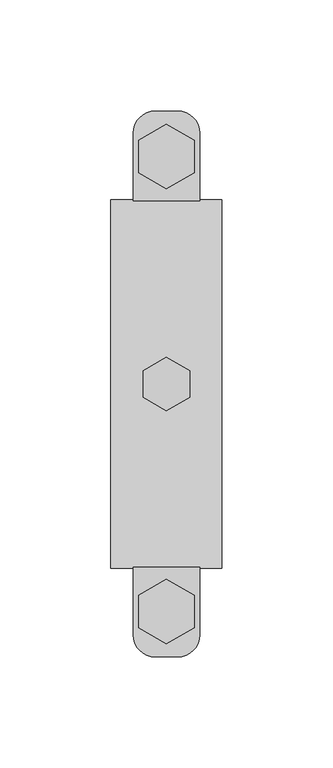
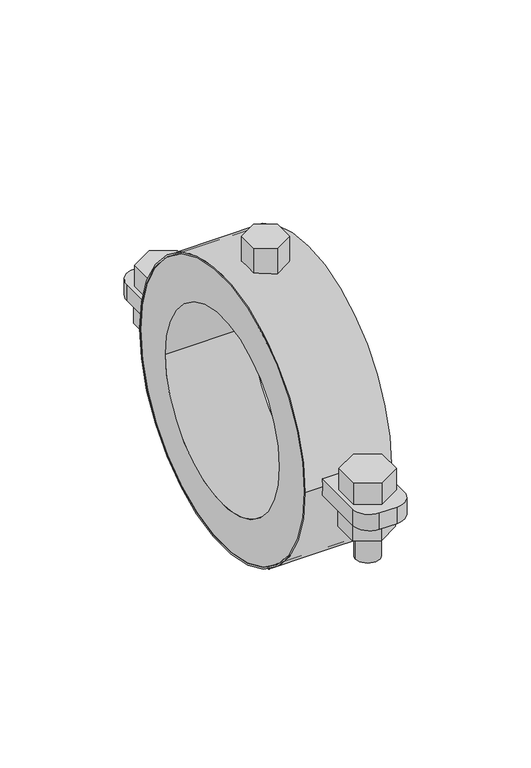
"""IFC4 building model written with IfcOpenShell, lengths in millimetres: pipe fitting geometry, СТ_Подвесы_ДляТруб_IsotermSM_D10-325_СимфонияТепла : Isoterm SMT 25-114."""

from ifc_helpers import new_model, si_unit, point, frame, frame_2d, origin, origin_2d, place, context, project, spatial, polyline, circle_curve, trimmed, segment, composite_curve, outline, extrude, source, transform, mapped, element, save
from ifc_brep_helpers import plane_surface, cylinder_surface, advanced_brep


def pipe_fitting_05f07e14(model_context):
    return source(origin(), model_context, "Body", "SolidModel", [
        extrude(outline(polyline([(12.5, 96.2113249), (0.0, 88.9944465), (-12.5, 96.2113249), (-12.5, 110.6450816), (0.0, 117.86196), (12.5, 110.6450816), (12.5, 96.2113249)])), frame((0.0, 0.0, -18.0), z_axis=(0.0, 0.0, 1.0), x_axis=(1.0, 0.0, 0.0)), (0.0, 0.0, 1.0), 13.0),
        advanced_brep(
        [(-7.0, 102.5, -35.0), (7.0, 102.5, -35.0), (7.0, 102.5, 5.0), (-7.0, 102.5, 5.0), (12.5, 95.2831216, 18.0), (12.5, 109.7168784, 18.0), (0.0, 116.9337567, 18.0), (-12.5, 109.7168784, 18.0), (-12.5, 95.2831216, 18.0), (0.0, 88.0662433, 18.0), (12.5, 95.2831216, 5.0), (0.0, 88.0662433, 5.0), (-12.5, 95.2831216, 5.0), (-12.5, 109.7168784, 5.0), (0.0, 116.9337567, 5.0), (12.5, 109.7168784, 5.0)],
        [
            (0, 1, circle_curve(frame((0.0, 102.5, -35.0), z_axis=(0.0, 0.0, -1.0), x_axis=(1.0, 0.0, 0.0)), 7.0)),
            (1, 0, circle_curve(frame((0.0, 102.5, -35.0), z_axis=(0.0, 0.0, -1.0), x_axis=(1.0, 0.0, 0.0)), 7.0)),
            (1, 2),
            (2, 3, circle_curve(frame((0.0, 102.5, 5.0), z_axis=(0.0, 0.0, -1.0), x_axis=(1.0, 0.0, 0.0)), 7.0)),
            (3, 0),
            (3, 2, circle_curve(frame((0.0, 102.5, 5.0), z_axis=(0.0, 0.0, -1.0), x_axis=(1.0, 0.0, 0.0)), 7.0)),
            (4, 5),
            (5, 6),
            (6, 7),
            (7, 8),
            (8, 9),
            (9, 4),
            (10, 11),
            (11, 12),
            (12, 13),
            (13, 14),
            (14, 15),
            (15, 10),
            (4, 10),
            (15, 5),
            (14, 6),
            (13, 7),
            (12, 8),
            (11, 9),
        ],
        [
            plane_surface(frame((7.0, 102.5, -35.0), z_axis=(0.0, 0.0, -1.0), x_axis=(0.0, -1.0, 0.0))),
            cylinder_surface(frame((0.0, 102.5, -35.0), z_axis=(0.0, 0.0, 1.0), x_axis=(1.0, 0.0, 0.0)), 7.0),
            plane_surface(frame((12.5, 95.2831216, 18.0), z_axis=(0.0, 0.0, 1.0), x_axis=(0.0, 1.0, 0.0))),
            plane_surface(frame((12.5, 95.2831216, 5.0), z_axis=(0.0, 0.0, -1.0), x_axis=(0.0, -1.0, 0.0))),
            plane_surface(frame((12.5, 95.2831216, 18.0), z_axis=(1.0, 0.0, 0.0), x_axis=(0.0, 0.0, -1.0))),
            plane_surface(frame((12.5, 109.7168784, 18.0), z_axis=(0.5000000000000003, 0.8660254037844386, 0.0), x_axis=(0.0, 0.0, -1.0))),
            plane_surface(frame((0.0, 116.9337567, 18.0), z_axis=(-0.5000000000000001, 0.8660254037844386, 0.0), x_axis=(0.0, 0.0, -1.0))),
            plane_surface(frame((-12.5, 109.7168784, 18.0), z_axis=(-1.0, 0.0, 0.0), x_axis=(0.0, 0.0, -1.0))),
            plane_surface(frame((-12.5, 95.2831216, 18.0), z_axis=(-0.5000000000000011, -0.8660254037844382, 0.0), x_axis=(0.0, 0.0, -1.0))),
            plane_surface(frame((0.0, 88.0662433, 18.0), z_axis=(0.5000000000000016, -0.8660254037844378, 0.0), x_axis=(0.0, 0.0, -1.0))),
        ],
        [
            (0, [[1, 2]]),
            (1, [[-2, 3, 4, 5]]),
            (1, [[-1, -5, 6, -3]]),
            (2, [[7, 8, 9, 10, 11, 12]]),
            (3, [[13, 14, 15, 16, 17, 18], [-4, -6]]),
            (4, [[-7, 19, -18, 20]]),
            (5, [[-8, -20, -17, 21]]),
            (6, [[-9, -21, -16, 22]]),
            (7, [[-10, -22, -15, 23]]),
            (8, [[-11, -23, -14, 24]]),
            (9, [[-12, -24, -13, -19]]),
        ],
    ),
        extrude(outline(polyline([(12.5, -108.7886751), (0.0, -116.0055535), (-12.5, -108.7886751), (-12.5, -94.3549184), (0.0, -87.13804), (12.5, -94.3549184), (12.5, -108.7886751)])), frame((0.0, 0.0, -18.0), z_axis=(0.0, 0.0, 1.0), x_axis=(1.0, 0.0, 0.0)), (0.0, 0.0, 1.0), 13.0),
        advanced_brep(
        [(-7.0, -102.5, -35.0), (7.0, -102.5, -35.0), (7.0, -102.5, 5.0), (-7.0, -102.5, 5.0), (12.5, -109.7168784, 18.0), (12.5, -95.2831216, 18.0), (0.0, -88.0662433, 18.0), (-12.5, -95.2831216, 18.0), (-12.5, -109.7168784, 18.0), (0.0, -116.9337567, 18.0), (12.5, -109.7168784, 5.0), (0.0, -116.9337567, 5.0), (-12.5, -109.7168784, 5.0), (-12.5, -95.2831216, 5.0), (0.0, -88.0662433, 5.0), (12.5, -95.2831216, 5.0)],
        [
            (0, 1, circle_curve(frame((0.0, -102.5, -35.0), z_axis=(0.0, 0.0, -1.0), x_axis=(1.0, 0.0, 0.0)), 7.0)),
            (1, 0, circle_curve(frame((0.0, -102.5, -35.0), z_axis=(0.0, 0.0, -1.0), x_axis=(1.0, 0.0, 0.0)), 7.0)),
            (1, 2),
            (2, 3, circle_curve(frame((0.0, -102.5, 5.0), z_axis=(0.0, 0.0, -1.0), x_axis=(1.0, 0.0, 0.0)), 7.0)),
            (3, 0),
            (3, 2, circle_curve(frame((0.0, -102.5, 5.0), z_axis=(0.0, 0.0, -1.0), x_axis=(1.0, 0.0, 0.0)), 7.0)),
            (4, 5),
            (5, 6),
            (6, 7),
            (7, 8),
            (8, 9),
            (9, 4),
            (10, 11),
            (11, 12),
            (12, 13),
            (13, 14),
            (14, 15),
            (15, 10),
            (4, 10),
            (15, 5),
            (14, 6),
            (13, 7),
            (12, 8),
            (11, 9),
        ],
        [
            plane_surface(frame((7.0, -102.5, -35.0), z_axis=(0.0, 0.0, -1.0), x_axis=(0.0, -1.0, 0.0))),
            cylinder_surface(frame((0.0, -102.5, -35.0), z_axis=(0.0, 0.0, 1.0), x_axis=(1.0, 0.0, 0.0)), 7.0),
            plane_surface(frame((12.5, -109.7168784, 18.0), z_axis=(0.0, 0.0, 1.0), x_axis=(0.0, 1.0, 0.0))),
            plane_surface(frame((12.5, -109.7168784, 5.0), z_axis=(0.0, 0.0, -1.0), x_axis=(0.0, -1.0, 0.0))),
            plane_surface(frame((12.5, -109.7168784, 18.0), z_axis=(1.0, 0.0, 0.0), x_axis=(0.0, 0.0, -1.0))),
            plane_surface(frame((12.5, -95.2831216, 18.0), z_axis=(0.5000000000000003, 0.8660254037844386, 0.0), x_axis=(0.0, 0.0, -1.0))),
            plane_surface(frame((0.0, -88.0662433, 18.0), z_axis=(-0.5000000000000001, 0.8660254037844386, 0.0), x_axis=(0.0, 0.0, -1.0))),
            plane_surface(frame((-12.5, -95.2831216, 18.0), z_axis=(-1.0, 0.0, 0.0), x_axis=(0.0, 0.0, -1.0))),
            plane_surface(frame((-12.5, -109.7168784, 18.0), z_axis=(-0.5000000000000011, -0.8660254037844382, 0.0), x_axis=(0.0, 0.0, -1.0))),
            plane_surface(frame((0.0, -116.9337567, 18.0), z_axis=(0.5000000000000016, -0.8660254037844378, 0.0), x_axis=(0.0, 0.0, -1.0))),
        ],
        [
            (0, [[1, 2]]),
            (1, [[-2, 3, 4, 5]]),
            (1, [[-1, -5, 6, -3]]),
            (2, [[7, 8, 9, 10, 11, 12]]),
            (3, [[13, 14, 15, 16, 17, 18], [-4, -6]]),
            (4, [[-7, 19, -18, 20]]),
            (5, [[-8, -20, -17, 21]]),
            (6, [[-9, -21, -16, 22]]),
            (7, [[-10, -22, -15, 23]]),
            (8, [[-11, -23, -14, 24]]),
            (9, [[-12, -24, -13, -19]]),
        ],
    ),
        extrude(outline(composite_curve([segment(trimmed(circle_curve(origin_2d(), 83.0), [point((-83.0, 0.0))], [point((83.0, 0.0))], False, "CARTESIAN"), True, "CONTINUOUS"), segment(trimmed(circle_curve(origin_2d(), 83.0), [point((83.0, 0.0))], [point((-83.0, 0.0))], False, "CARTESIAN"), True, "CONTINUOUS")], self_intersect=False), holes=[composite_curve([segment(trimmed(circle_curve(origin_2d(), 82.0), [point((-82.0, 0.0))], [point((82.0, 0.0))], True, "CARTESIAN"), True, "CONTINUOUS"), segment(trimmed(circle_curve(origin_2d(), 82.0), [point((82.0, 0.0))], [point((-82.0, 0.0))], True, "CARTESIAN"), True, "CONTINUOUS")], self_intersect=False)]), frame((-25.0, 0.0, 0.0), z_axis=(1.0, 0.0, 0.0), x_axis=(0.0, 1.0, 0.0)), (0.0, 0.0, 1.0), 50.0),
        extrude(outline(polyline([(10.5, -6.0621778), (0.0, -12.1243557), (-10.5, -6.0621778), (-10.5, 6.0621778), (0.0, 12.1243557), (10.5, 6.0621778), (10.5, -6.0621778)])), frame((0.0, 0.0, 82.0), z_axis=(0.0, 0.0, 1.0), x_axis=(1.0, 0.0, 0.0)), (0.0, 0.0, 1.0), 16.0),
        extrude(outline(composite_curve([segment(trimmed(circle_curve(frame_2d((-5.0, 113.0)), 10.0), [point((-15.0, 113.0))], [point((-5.0, 123.0))], False, "CARTESIAN"), True, "CONTINUOUS"), segment(polyline([(-5.0, 123.0), (5.0, 123.0)]), True, "CONTINUOUS"), segment(trimmed(circle_curve(frame_2d((5.0, 113.0)), 10.0), [point((5.0, 123.0))], [point((15.0, 113.0))], False, "CARTESIAN"), True, "CONTINUOUS"), segment(polyline([(15.0, 113.0), (15.0, 82.0), (-15.0, 82.0), (-15.0, 113.0)]), True, "CONTINUOUS")], self_intersect=False)), frame((0.0, 0.0, -5.0), z_axis=(0.0, 0.0, 1.0), x_axis=(1.0, 0.0, 0.0)), (0.0, 0.0, 1.0), 10.0),
        extrude(outline(composite_curve([segment(polyline([(-15.0, -82.0), (15.0, -82.0), (15.0, -113.0)]), True, "CONTINUOUS"), segment(trimmed(circle_curve(frame_2d((5.0, -113.0)), 10.0), [point((15.0, -113.0))], [point((5.0, -123.0))], False, "CARTESIAN"), True, "CONTINUOUS"), segment(polyline([(5.0, -123.0), (-5.0, -123.0)]), True, "CONTINUOUS"), segment(trimmed(circle_curve(frame_2d((-5.0, -113.0)), 10.0), [point((-5.0, -123.0))], [point((-15.0, -113.0))], False, "CARTESIAN"), True, "CONTINUOUS"), segment(polyline([(-15.0, -113.0), (-15.0, -82.0)]), True, "CONTINUOUS")], self_intersect=False)), frame((0.0, 0.0, -5.0), z_axis=(0.0, 0.0, 1.0), x_axis=(1.0, 0.0, 0.0)), (0.0, 0.0, 1.0), 10.0),
        extrude(outline(composite_curve([segment(trimmed(circle_curve(origin_2d(), 82.0), [point((-82.0, 0.0))], [point((82.0, 0.0))], False, "CARTESIAN"), True, "CONTINUOUS"), segment(trimmed(circle_curve(origin_2d(), 82.0), [point((82.0, 0.0))], [point((-82.0, 0.0))], False, "CARTESIAN"), True, "CONTINUOUS")], self_intersect=False), holes=[composite_curve([segment(trimmed(circle_curve(origin_2d(), 57.0), [point((-57.0, 0.0))], [point((57.0, 0.0))], True, "CARTESIAN"), True, "CONTINUOUS"), segment(trimmed(circle_curve(origin_2d(), 57.0), [point((57.0, 0.0))], [point((-57.0, 0.0))], True, "CARTESIAN"), True, "CONTINUOUS")], self_intersect=False)]), frame((-25.0, 0.0, 0.0), z_axis=(1.0, 0.0, 0.0), x_axis=(0.0, 1.0, 0.0)), (0.0, 0.0, 1.0), 50.0),
    ])


if __name__ == "__main__":
    model = new_model("IFC4")
    model_context = context("Model", 3, world=origin())
    ifc_project = project(units=[si_unit("LENGTHUNIT", "METRE", prefix="MILLI")], contexts=[model_context])
    site = spatial("IfcSite", under=ifc_project)
    building = spatial("IfcBuilding", under=site)
    placement = place(None, origin())
    pipe_fitting_shape = pipe_fitting_05f07e14(model_context)
    element("IfcPipeFitting", 1, ObjectType="СТ_Подвесы_ДляТруб_IsotermSM_D10-325_СимфонияТепла : Isoterm SMT 25-114", at=placement, inside=building, context=model_context, shape_type="MappedRepresentation", body=[
        mapped(pipe_fitting_shape, transform((0.0, 0.0, 0.0), x_axis=(1.0, 0.0, 0.0), y_axis=(0.0, 1.0, 0.0), z_axis=(0.0, 0.0, 1.0))),
    ])
    save(model, "model.ifc")
